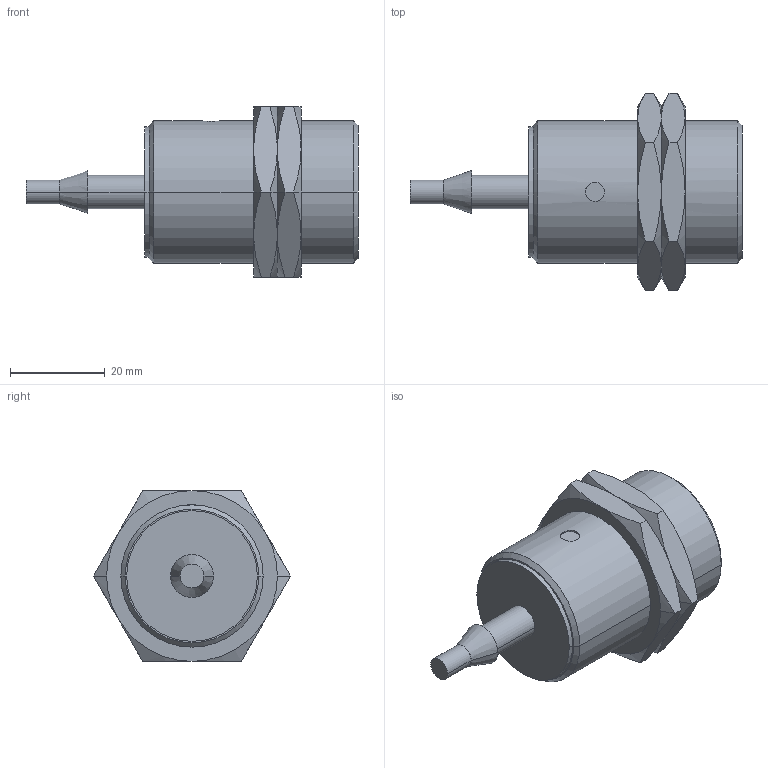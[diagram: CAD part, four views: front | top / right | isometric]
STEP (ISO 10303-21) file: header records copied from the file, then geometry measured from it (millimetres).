
FILE_DESCRIPTION( ( '' ), '1' );
FILE_NAME( '//partserver001.servicenet/client_exchange/iodir/jobs/output/wkb10602103_no0/STEP/ii5493_2_03.stp', '2008-05-15T12:30:13', ( '' ), ( '' ), ' ', ' ', ' ' );
FILE_SCHEMA( ( 'CONFIG_CONTROL_DESIGN' ) );
Length unit declared in the file: millimetre
Products named in the file (3): 1; 2; 3
Bounding box: 70 x 41.57 x 36 mm (x, y, z)
Volume: 37030.4 mm3; surface area: 9789.3 mm2
Topology: 3 solids, 3 shells, 83 faces, 173 edges, 101 vertices
Faces by surface type: cone 46, plane 23, cylinder 14
Entity records: 2330 total; most frequent: CARTESIAN_POINT 523, DIRECTION 368, ORIENTED_EDGE 346, EDGE_CURVE 173, AXIS2_PLACEMENT_3D 160, VERTEX_POINT 101, EDGE_LOOP 92, ADVANCED_FACE 83
